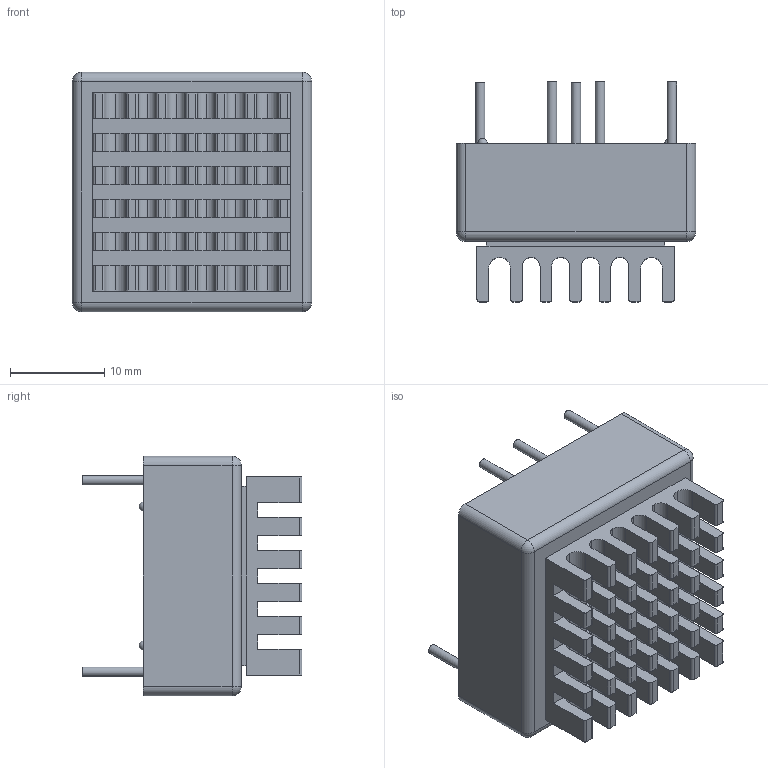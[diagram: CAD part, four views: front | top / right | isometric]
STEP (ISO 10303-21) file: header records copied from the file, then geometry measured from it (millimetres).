
FILE_DESCRIPTION(/* description */ ('Unknown'),/* implementation_level */ '2;1');
FILE_NAME(/* name */ 'JTK30(S)(SK)',/* time_stamp */ '2017-11-29T14:13:46+08:00',/* author */ ('Unknown'),/* organization */ ('Unknown'),/* preprocessor_version */ 'ST-DEVELOPER v16.7',/* originating_system */ 'DEX',/* authorisation */ $);
FILE_SCHEMA (('AUTOMOTIVE_DESIGN {1 0 10303 214 3 1 1}'));
Length unit declared in the file: millimetre
Products named in the file (1): JTK30(S)(SK)
Bounding box: 25.4 x 23.3 x 25.4 mm (x, y, z)
Volume: 8003.2 mm3; surface area: 4025.8 mm2
Topology: 1 solids, 1 shells, 388 faces, 1010 edges, 624 vertices
Faces by surface type: plane 210, cylinder 170, sphere 8
Full cylindrical faces by diameter (mm): 1 x6
Entity records: 11678 total; most frequent: DIRECTION 2110, CARTESIAN_POINT 1997, ORIENTED_EDGE 1976, EDGE_CURVE 988, AXIS2_PLACEMENT_3D 733, LINE 644, VECTOR 644, VERTEX_POINT 620
